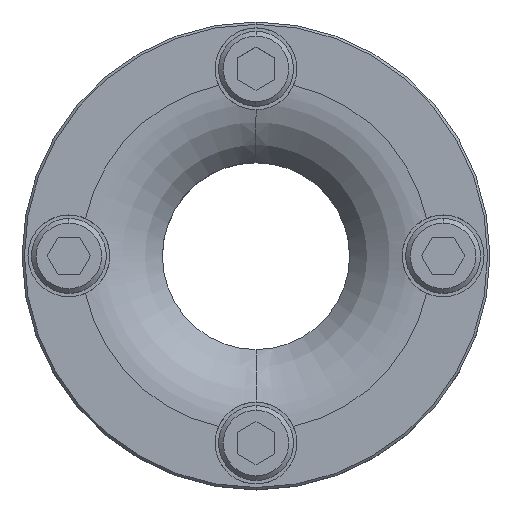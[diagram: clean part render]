
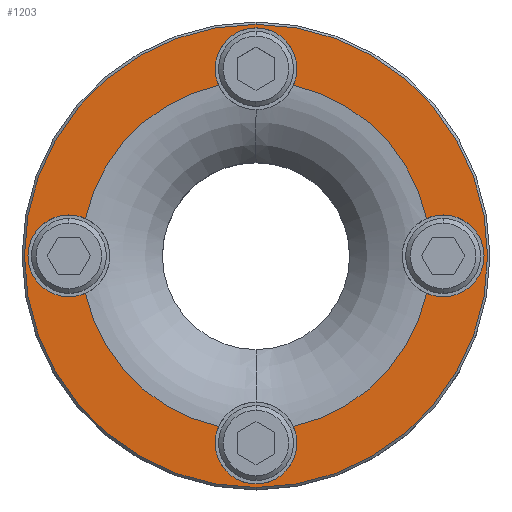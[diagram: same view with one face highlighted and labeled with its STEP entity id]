
A CAD part, top view. The second image highlights one B-rep face of the part: STEP entity #1203.
In plain terms, the highlighted planar face has unit normal (0, 0, 1).
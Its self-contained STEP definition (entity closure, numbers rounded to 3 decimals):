
#126=VERTEX_POINT(' ',#127);
#127=CARTESIAN_POINT('',(0.,-49.5,20.));
#132=VERTEX_POINT(' ',#133);
#133=CARTESIAN_POINT('',(0.,49.5,20.));
#174=VERTEX_POINT(' ',#175);
#175=CARTESIAN_POINT('',(7.999,36.453,20.));
#180=VERTEX_POINT(' ',#181);
#181=CARTESIAN_POINT('',(7.999,-36.453,20.));
#182=VERTEX_POINT(' ',#183);
#183=CARTESIAN_POINT('',(36.453,-7.999,20.));
#184=VERTEX_POINT(' ',#185);
#185=CARTESIAN_POINT('',(36.453,7.999,20.));
#186=VERTEX_POINT(' ',#187);
#187=CARTESIAN_POINT('',(-36.453,-7.999,20.));
#188=VERTEX_POINT(' ',#189);
#189=CARTESIAN_POINT('',(-40.,-8.75,20.));
#190=VERTEX_POINT(' ',#191);
#191=CARTESIAN_POINT('',(-40.,8.75,20.));
#192=VERTEX_POINT(' ',#193);
#193=CARTESIAN_POINT('',(-36.453,7.999,20.));
#194=VERTEX_POINT(' ',#195);
#195=CARTESIAN_POINT('',(-7.999,36.453,20.));
#196=VERTEX_POINT(' ',#197);
#197=CARTESIAN_POINT('',(0.,48.75,20.));
#198=VERTEX_POINT(' ',#199);
#199=CARTESIAN_POINT('',(40.,8.75,20.));
#200=VERTEX_POINT(' ',#201);
#201=CARTESIAN_POINT('',(40.,-8.75,20.));
#202=VERTEX_POINT(' ',#203);
#203=CARTESIAN_POINT('',(0.,-48.75,20.));
#204=VERTEX_POINT(' ',#205);
#205=CARTESIAN_POINT('',(-7.999,-36.453,20.));
#270=CIRCLE('',#271,49.5);
#271=AXIS2_PLACEMENT_3D('',#272,#273,#274);
#272=CARTESIAN_POINT('',(0.,0.,20.));
#273=DIRECTION('',(0.,0.,-1.));
#274=DIRECTION('',(-1.,0.,0.));
#275=EDGE_CURVE(' ',#132,#126,#270,.T.);
#276=CIRCLE('',#277,49.5);
#277=AXIS2_PLACEMENT_3D('',#278,#279,#280);
#278=CARTESIAN_POINT('',(0.,0.,20.));
#279=DIRECTION('',(0.,0.,-1.));
#280=DIRECTION('',(1.,0.,0.));
#281=EDGE_CURVE(' ',#126,#132,#276,.T.);
#530=CIRCLE('',#531,37.321);
#531=AXIS2_PLACEMENT_3D('',#532,#533,#534);
#532=CARTESIAN_POINT('',(0.,0.,20.));
#533=DIRECTION('',(0.,0.,-1.));
#534=DIRECTION('',(-1.,0.,0.));
#535=EDGE_CURVE(' ',#182,#180,#530,.T.);
#557=CIRCLE('',#558,37.321);
#558=AXIS2_PLACEMENT_3D('',#559,#560,#561);
#559=CARTESIAN_POINT('',(0.,0.,20.));
#560=DIRECTION('',(0.,0.,-1.));
#561=DIRECTION('',(-1.,0.,0.));
#562=EDGE_CURVE(' ',#174,#184,#557,.T.);
#563=CIRCLE('',#564,8.75);
#564=AXIS2_PLACEMENT_3D('',#565,#566,#567);
#565=CARTESIAN_POINT('',(-40.,0.,20.));
#566=DIRECTION('',(0.,0.,-1.));
#567=DIRECTION('',(-1.,0.,0.));
#568=EDGE_CURVE(' ',#188,#186,#563,.F.);
#569=CIRCLE('',#570,8.75);
#570=AXIS2_PLACEMENT_3D('',#571,#572,#573);
#571=CARTESIAN_POINT('',(-40.,0.,20.));
#572=DIRECTION('',(0.,0.,-1.));
#573=DIRECTION('',(1.,0.,0.));
#574=EDGE_CURVE(' ',#190,#188,#569,.F.);
#575=CIRCLE('',#576,8.75);
#576=AXIS2_PLACEMENT_3D('',#577,#578,#579);
#577=CARTESIAN_POINT('',(-40.,0.,20.));
#578=DIRECTION('',(0.,0.,-1.));
#579=DIRECTION('',(-1.,0.,0.));
#580=EDGE_CURVE(' ',#192,#190,#575,.F.);
#581=CIRCLE('',#582,37.321);
#582=AXIS2_PLACEMENT_3D('',#583,#584,#585);
#583=CARTESIAN_POINT('',(0.,0.,20.));
#584=DIRECTION('',(0.,0.,-1.));
#585=DIRECTION('',(1.,0.,0.));
#586=EDGE_CURVE(' ',#192,#194,#581,.T.);
#587=CIRCLE('',#588,8.75);
#588=AXIS2_PLACEMENT_3D('',#589,#590,#591);
#589=CARTESIAN_POINT('',(0.,40.,20.));
#590=DIRECTION('',(0.,0.,-1.));
#591=DIRECTION('',(1.,0.,0.));
#592=EDGE_CURVE(' ',#196,#194,#587,.F.);
#593=CIRCLE('',#594,8.75);
#594=AXIS2_PLACEMENT_3D('',#595,#596,#597);
#595=CARTESIAN_POINT('',(0.,40.,20.));
#596=DIRECTION('',(0.,0.,-1.));
#597=DIRECTION('',(-1.,0.,0.));
#598=EDGE_CURVE(' ',#174,#196,#593,.F.);
#599=CIRCLE('',#600,8.75);
#600=AXIS2_PLACEMENT_3D('',#601,#602,#603);
#601=CARTESIAN_POINT('',(40.,0.,20.));
#602=DIRECTION('',(0.,0.,-1.));
#603=DIRECTION('',(1.,0.,0.));
#604=EDGE_CURVE(' ',#198,#184,#599,.F.);
#605=CIRCLE('',#606,8.75);
#606=AXIS2_PLACEMENT_3D('',#607,#608,#609);
#607=CARTESIAN_POINT('',(40.,0.,20.));
#608=DIRECTION('',(0.,0.,-1.));
#609=DIRECTION('',(-1.,0.,0.));
#610=EDGE_CURVE(' ',#200,#198,#605,.F.);
#611=CIRCLE('',#612,8.75);
#612=AXIS2_PLACEMENT_3D('',#613,#614,#615);
#613=CARTESIAN_POINT('',(40.,0.,20.));
#614=DIRECTION('',(0.,0.,-1.));
#615=DIRECTION('',(1.,0.,0.));
#616=EDGE_CURVE(' ',#182,#200,#611,.F.);
#617=CIRCLE('',#618,8.75);
#618=AXIS2_PLACEMENT_3D('',#619,#620,#621);
#619=CARTESIAN_POINT('',(0.,-40.,20.));
#620=DIRECTION('',(0.,0.,-1.));
#621=DIRECTION('',(-1.,0.,0.));
#622=EDGE_CURVE(' ',#202,#180,#617,.F.);
#623=CIRCLE('',#624,8.75);
#624=AXIS2_PLACEMENT_3D('',#625,#626,#627);
#625=CARTESIAN_POINT('',(0.,-40.,20.));
#626=DIRECTION('',(0.,0.,-1.));
#627=DIRECTION('',(1.,0.,0.));
#628=EDGE_CURVE(' ',#204,#202,#623,.F.);
#629=CIRCLE('',#630,37.321);
#630=AXIS2_PLACEMENT_3D('',#631,#632,#633);
#631=CARTESIAN_POINT('',(0.,0.,20.));
#632=DIRECTION('',(0.,0.,-1.));
#633=DIRECTION('',(1.,0.,0.));
#634=EDGE_CURVE(' ',#204,#186,#629,.T.);
#1178=ORIENTED_EDGE('',*,*,#275,.F.);
#1179=ORIENTED_EDGE('',*,*,#281,.F.);
#1180=EDGE_LOOP('',(#1178,#1179));
#1181=FACE_OUTER_BOUND('',#1180,.T.);
#1182=ORIENTED_EDGE('',*,*,#568,.F.);
#1183=ORIENTED_EDGE('',*,*,#574,.F.);
#1184=ORIENTED_EDGE('',*,*,#580,.F.);
#1185=ORIENTED_EDGE('',*,*,#586,.T.);
#1186=ORIENTED_EDGE('',*,*,#592,.F.);
#1187=ORIENTED_EDGE('',*,*,#598,.F.);
#1188=ORIENTED_EDGE('',*,*,#562,.T.);
#1189=ORIENTED_EDGE('',*,*,#604,.F.);
#1190=ORIENTED_EDGE('',*,*,#610,.F.);
#1191=ORIENTED_EDGE('',*,*,#616,.F.);
#1192=ORIENTED_EDGE('',*,*,#535,.T.);
#1193=ORIENTED_EDGE('',*,*,#622,.F.);
#1194=ORIENTED_EDGE('',*,*,#628,.F.);
#1195=ORIENTED_EDGE('',*,*,#634,.T.);
#1196=EDGE_LOOP('',(#1182,#1183,#1184,#1185,#1186,#1187,#1188,#1189,#1190,#1191,#1192,#1193,#1194,#1195));
#1197=FACE_BOUND('',#1196,.T.);
#1198=PLANE('',#1199);
#1199=AXIS2_PLACEMENT_3D('',#1200,#1201,#1202);
#1200=CARTESIAN_POINT('',(0.,0.,20.));
#1201=DIRECTION('',(0.,0.,1.));
#1202=DIRECTION('',(-1.,0.,0.));
#1203=ADVANCED_FACE('',(#1181,#1197),#1198,.T.);
